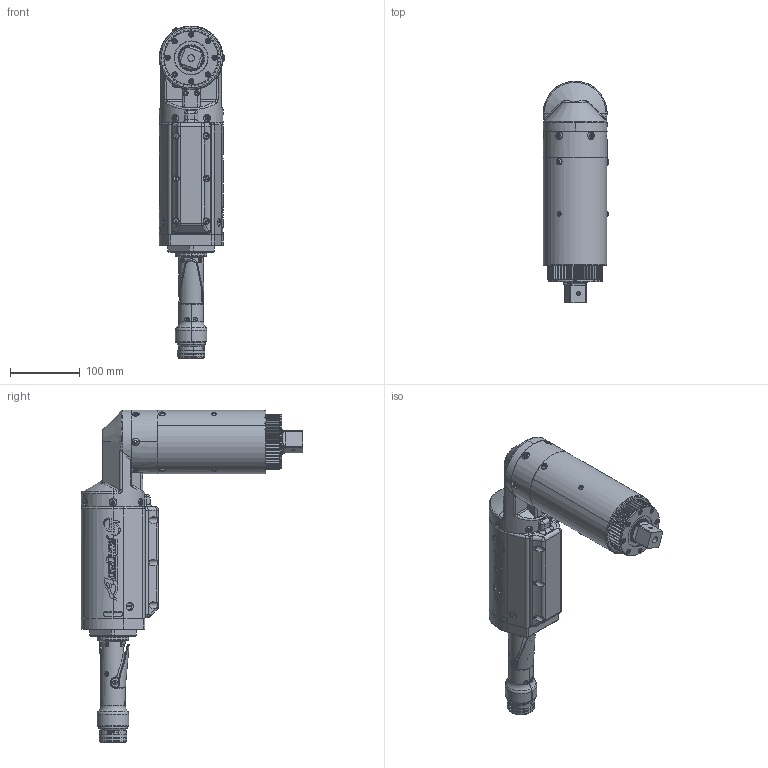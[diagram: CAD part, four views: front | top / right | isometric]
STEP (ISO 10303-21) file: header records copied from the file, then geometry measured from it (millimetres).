
FILE_DESCRIPTION (( 'STEP AP214' ), '1' );
FILE_NAME ('AEN4B885000B1.STEP', '2024-04-02T16:54:25', ( '' ), ( '' ), 'SwSTEP 2.0', 'SolidWorks 2023', '' );
FILE_SCHEMA (( 'AUTOMOTIVE_DESIGN' ));
Length unit declared in the file: inch
Products named in the file (1): AEN4B885000B1
Bounding box: 93.88 x 317.85 x 475.86 mm (x, y, z)
Surface area: 384250.5 mm2 (no closed solid volume)
Topology: 0 solids, 169 shells, 1673 faces, 6465 edges, 4824 vertices
Faces by surface type: cylinder 549, plane 414, bspline 327, torus 201, cone 170, sphere 12
Entity records: 90691 total; most frequent: CARTESIAN_POINT 42050, ORIENTED_EDGE 9376, DIRECTION 8950, EDGE_CURVE 6458, VERTEX_POINT 4824, AXIS2_PLACEMENT_3D 3365, VECTOR 2220, LINE 2220
